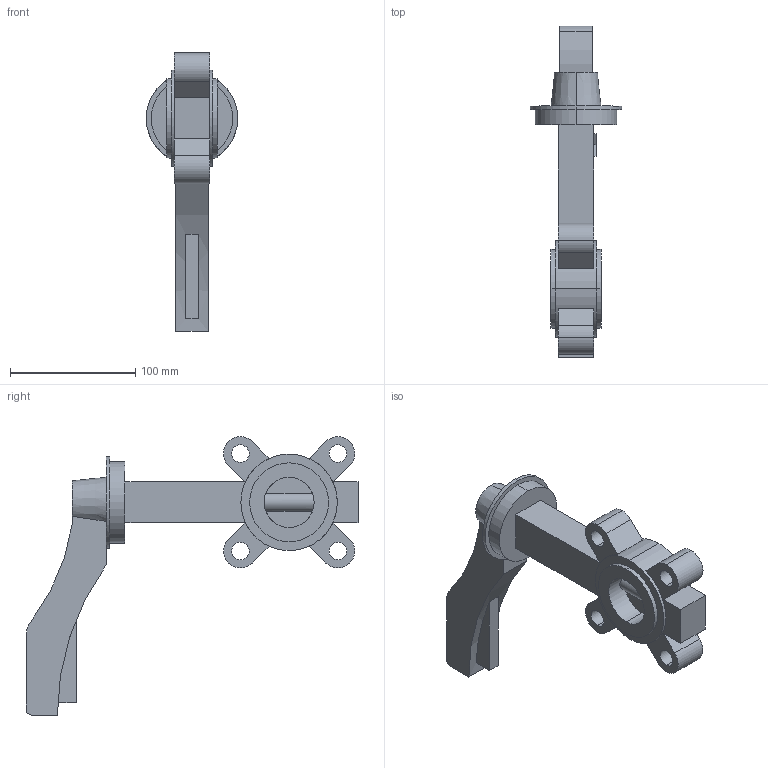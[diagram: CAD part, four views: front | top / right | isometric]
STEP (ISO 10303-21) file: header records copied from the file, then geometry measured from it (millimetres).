
FILE_DESCRIPTION (( 'STEP AP214' ), '1' );
FILE_NAME ('E124_040.STEP', '2021-05-28T12:52:42', ( '' ), ( '' ), 'SwSTEP 2.0', 'SolidWorks 2020', '' );
FILE_SCHEMA (( 'AUTOMOTIVE_DESIGN' ));
Length unit declared in the file: millimetre
Products named in the file (1): E124_040
Bounding box: 73 x 265 x 222.39 mm (x, y, z)
Volume: 515933.7 mm3; surface area: 83543.8 mm2
Topology: 1 solids, 1 shells, 89 faces, 229 edges, 152 vertices
Faces by surface type: plane 53, cylinder 34, cone 2
Entity records: 3812 total; most frequent: CARTESIAN_POINT 605, DIRECTION 483, ORIENTED_EDGE 458, EDGE_CURVE 229, AXIS2_PLACEMENT_3D 170, VERTEX_POINT 152, VECTOR 143, LINE 143
